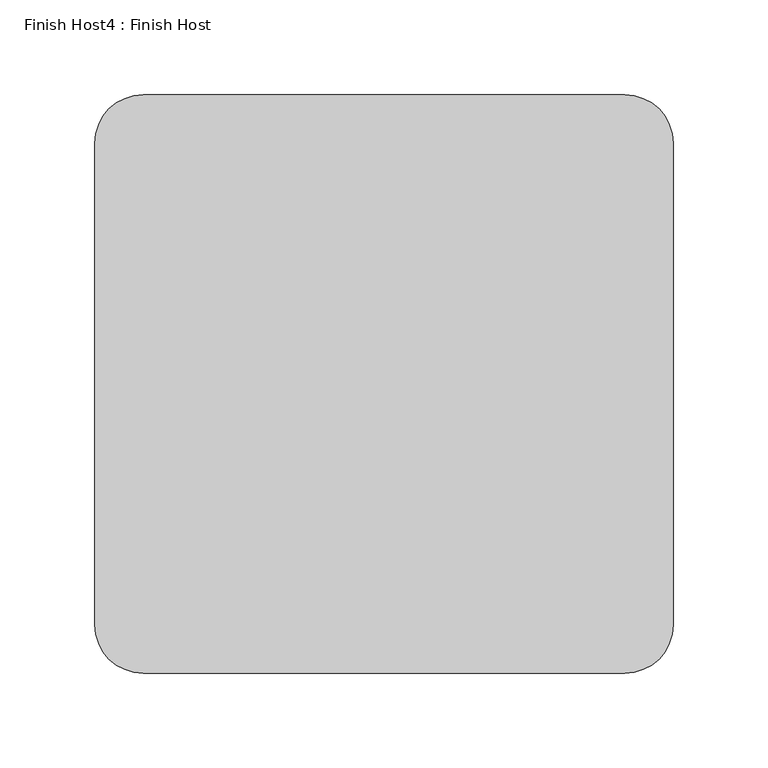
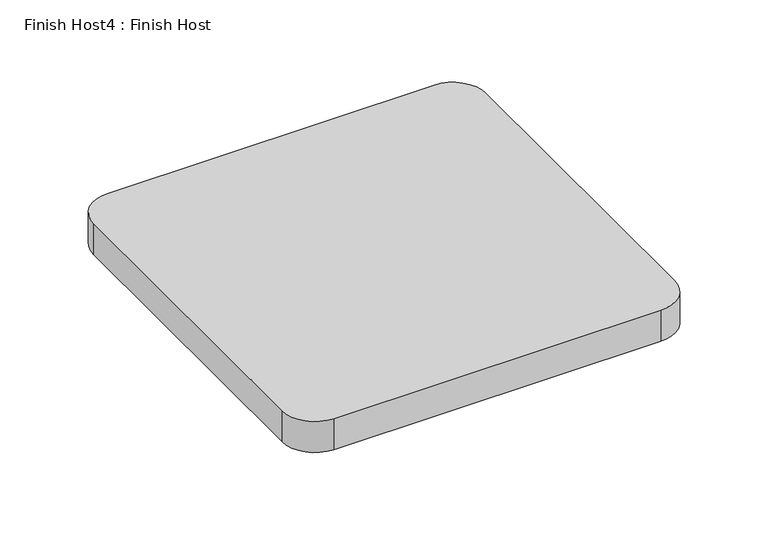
"""IFC4 building model written with IfcOpenShell, lengths in millimetres: proxy geometry, Finish Host4 : Finish Host."""

from ifc_helpers import new_model, si_unit, point, frame_2d, origin, origin_with_axes, place, context, project, spatial, polyline, circle_curve, trimmed, segment, composite_curve, outline, extrude, source, transform, mapped, element, save


def finish_host4_finish_host_66b54ad6(model_context):
    return source(origin(), model_context, "Body", "SweptSolid", [
        extrude(outline(composite_curve([segment(polyline([(3018.9649374, 3242.5667263), (3018.9649374, 3496.5667263)]), True, "CONTINUOUS"), segment(trimmed(circle_curve(frame_2d((3044.3649374, 3496.5667263)), 25.4), [point((3018.9649374, 3496.5667263))], [point((3044.3649374, 3521.9667263))], False, "CARTESIAN"), True, "CONTINUOUS"), segment(polyline([(3044.3649374, 3521.9667263), (3298.3649374, 3521.9667263)]), True, "CONTINUOUS"), segment(trimmed(circle_curve(frame_2d((3298.3649374, 3496.5667263)), 25.4), [point((3298.3649374, 3521.9667263))], [point((3323.7649374, 3496.5667263))], False, "CARTESIAN"), True, "CONTINUOUS"), segment(polyline([(3323.7649374, 3496.5667263), (3323.7649374, 3242.5667263)]), True, "CONTINUOUS"), segment(trimmed(circle_curve(frame_2d((3298.3649374, 3242.5667263)), 25.4), [point((3323.7649374, 3242.5667263))], [point((3298.3649374, 3217.1667263))], False, "CARTESIAN"), True, "CONTINUOUS"), segment(polyline([(3298.3649374, 3217.1667263), (3044.3649374, 3217.1667263)]), True, "CONTINUOUS"), segment(trimmed(circle_curve(frame_2d((3044.3649374, 3242.5667263)), 25.4), [point((3044.3649374, 3217.1667263))], [point((3018.9649374, 3242.5667263))], False, "CARTESIAN"), True, "CONTINUOUS")], self_intersect=False)), origin_with_axes(), (0.0, 0.0, 1.0), 25.4),
    ])


if __name__ == "__main__":
    model = new_model("IFC4")
    model_context = context("Model", 3, world=origin())
    ifc_project = project(units=[si_unit("LENGTHUNIT", "METRE", prefix="MILLI")], contexts=[model_context])
    site = spatial("IfcSite", under=ifc_project)
    building = spatial("IfcBuilding", under=site)
    placement = place(None, origin())
    finish_host4_finish_host_shape = finish_host4_finish_host_66b54ad6(model_context)
    element("IfcBuildingElementProxy", 1, Name="Finish Host4 : Finish Host", ObjectType="Finish Host4 : Finish Host", at=placement, inside=building, context=model_context, shape_type="MappedRepresentation", body=[
        mapped(finish_host4_finish_host_shape, transform((0.0, 0.0, 0.0), x_axis=(1.0, 0.0, 0.0), y_axis=(0.0, 1.0, 0.0), z_axis=(0.0, 0.0, 1.0))),
    ])
    save(model, "model.ifc")
